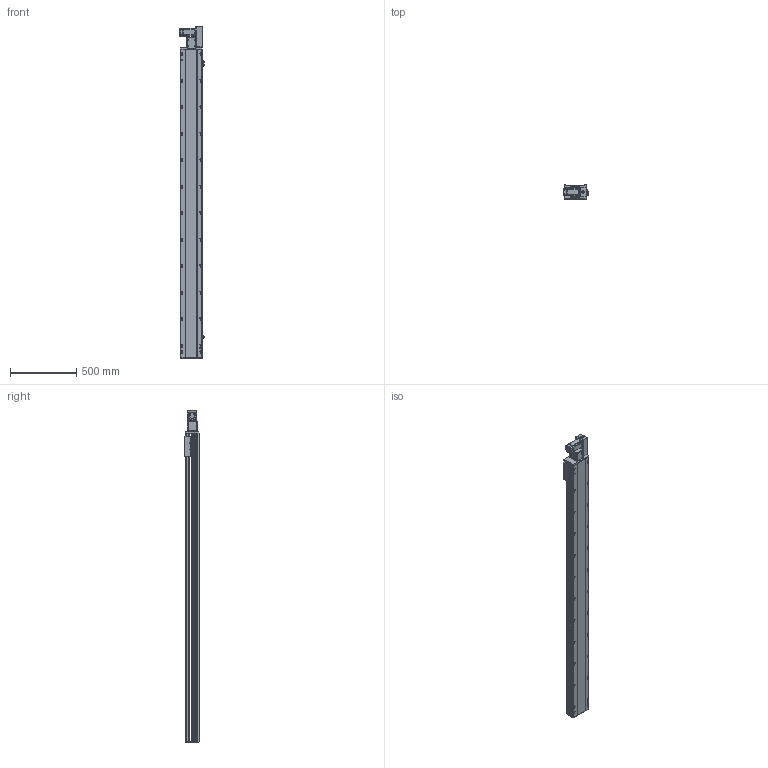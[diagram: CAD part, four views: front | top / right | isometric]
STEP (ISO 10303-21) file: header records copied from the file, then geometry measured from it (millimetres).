
FILE_DESCRIPTION (( 'STEP AP214' ), '1' );
FILE_NAME ('TPT17M-L40-2050-R-T40-C4.STEP', '2023-03-24T07:02:19', ( '' ), ( '' ), 'SwSTEP 2.0', 'SolidWorks 2020', '' );
FILE_SCHEMA (( 'AUTOMOTIVE_DESIGN' ));
Length unit declared in the file: millimetre
Products named in the file (11): hexagon head bolts-full thread gb_GB_FASTENER_BOLT_STBAB A M5X16-N; 葩璃 侂狟400W^TPT17M-L40-R-T40-C4; 葩璃 TPT17-L-007 々湍釱MZ-169x88^TPT17M-L40-R-T40-C4_TPT17M; 葩璃 TPT17-L-001 菁釱MZ-170-01^TPT17M-L40-R-T40-C4; TPT17M-L40-2050-R-T40-C4; hexagon socket head cap screws gb_GB_FASTENER_SCREWS_HSHCS M3X6-N; 葩璃 TPT14-L-009 萇儂啣^TPT17M-L40-R-T40-C4_400W; hex nuts, style 1-grades ab gb_GB_FASTENER_NUT_SNAB1 M3-N; 葩璃 TPT17-L-005 賑釱MZ-170-07^TPT17M-L40-R-T40-C4; 葩璃 TPT17-L-002 奻裔MZ-170-05^TPT17M-L40-R-T40-C4; 葩璃 pm-t65-672^TPT17M-L40-R-T40-C4
Assembly tree (22 placements, depth 2):
  TPT17M-L40-2050-R-T40-C4
    葩璃 TPT17-L-001 菁釱MZ-170-01^TPT17M-L40-R-T40-C4
    葩璃 TPT17-L-002 奻裔MZ-170-05^TPT17M-L40-R-T40-C4
    葩璃 TPT17-L-005 賑釱MZ-170-07^TPT17M-L40-R-T40-C4
    葩璃 TPT17-L-007 々湍釱MZ-169x88^TPT17M-L40-R-T40-C4_TPT17M
    葩璃 TPT14-L-009 萇儂啣^TPT17M-L40-R-T40-C4_400W
    葩璃 pm-t65-672^TPT17M-L40-R-T40-C4  x3
    葩璃 侂狟400W^TPT17M-L40-R-T40-C4
    hexagon socket head cap screws gb_GB_FASTENER_SCREWS_HSHCS M3X6-N  x6
    hex nuts, style 1-grades ab gb_GB_FASTENER_NUT_SNAB1 M3-N  x6
    hexagon head bolts-full thread gb_GB_FASTENER_BOLT_STBAB A M5X16-N
Bounding box: 186.2 x 108 x 2506.65 mm (x, y, z)
Volume: 24743084 mm3; surface area: 2417644.5 mm2
Topology: 30 solids, 30 shells, 1825 faces, 4670 edges, 2946 vertices
Faces by surface type: plane 933, cylinder 616, cone 238, bspline 26, torus 12
Entity records: 44773 total; most frequent: CARTESIAN_POINT 8444, DIRECTION 7377, ORIENTED_EDGE 6888, EDGE_CURVE 3444, AXIS2_PLACEMENT_3D 2642, VERTEX_POINT 2237, LINE 2093, VECTOR 2093
